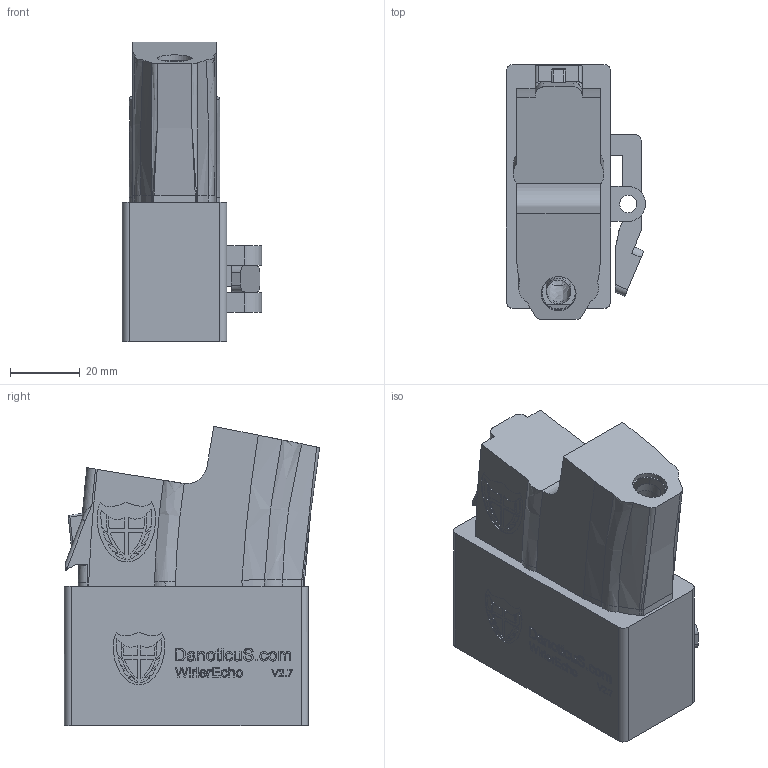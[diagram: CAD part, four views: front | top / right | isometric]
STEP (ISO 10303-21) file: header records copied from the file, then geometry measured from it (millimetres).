
FILE_DESCRIPTION(/* description */ (''),/* implementation_level */ '2;1');
FILE_NAME(/* name */ 'C:/Users/Simon/Desktop/Assembly ny v5.step',/* time_stamp */ '2019-09-01T11:54:17+02:00',/* author */ (''),/* organization */ (''),/* preprocessor_version */ 'ST-DEVELOPER v18',/* originating_system */ 'Autodesk Translation Framework v8.6.0.1094',/* authorisation */ '');
FILE_SCHEMA (('AUTOMOTIVE_DESIGN { 1 0 10303 214 3 1 1 }'));
Length unit declared in the file: millimetre
Products named in the file (7): Assembly ny; Aug part ny; M4 Part ny; Component2; Tube; MAG_RELEASE_FIXES; Component2_1
Assembly tree (6 placements, depth 3):
  Assembly ny
    Aug part ny
    M4 Part ny
      Component2
    Tube
    MAG_RELEASE_FIXES
      Component2_1
Bounding box: 40 x 73.31 x 86.01 mm (x, y, z)
Volume: 88713.6 mm3; surface area: 31985.3 mm2
Topology: 4 solids, 4 shells, 925 faces, 2507 edges, 1659 vertices
Faces by surface type: bspline 449, plane 409, cylinder 51, cone 8, torus 4, sphere 4
Full cylindrical faces by diameter (mm): 2 x2, 3.5 x2, 5 x5, 7 x1, 9 x1, 9.2 x1, 10 x1, 12.2 x1
Entity records: 33414 total; most frequent: CARTESIAN_POINT 13242, ORIENTED_EDGE 5010, DIRECTION 2702, EDGE_CURVE 2505, VERTEX_POINT 1659, LINE 1456, VECTOR 1456, EDGE_LOOP 1014
